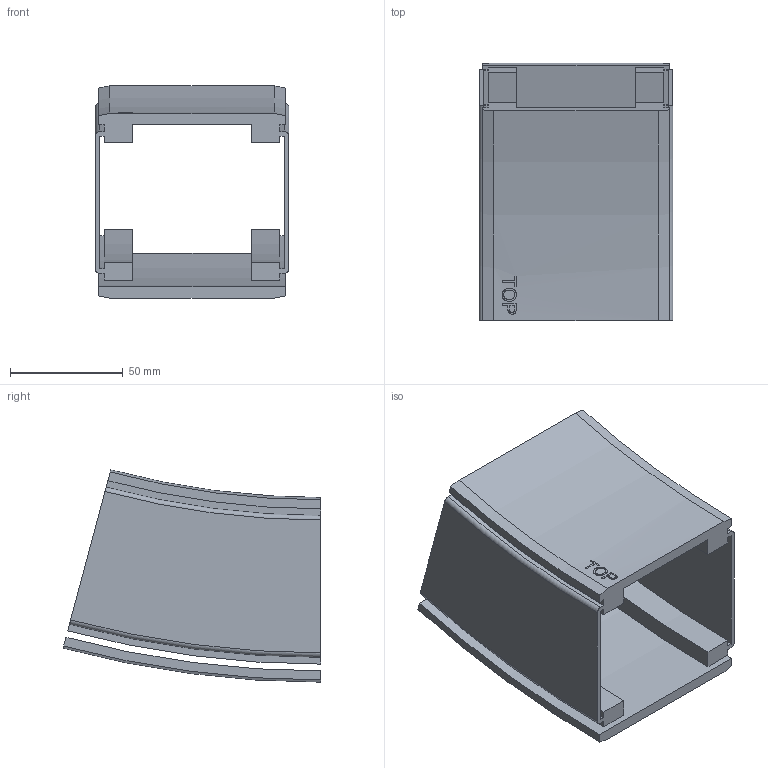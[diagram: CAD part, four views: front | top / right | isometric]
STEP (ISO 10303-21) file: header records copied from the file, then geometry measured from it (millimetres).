
FILE_DESCRIPTION(/* description */ ('VERTIKALKURVA S530 R400'),/* implementation_level */ '2;1');
FILE_NAME(/* name */ '530-5645+830-2000-UPP-01.stp',/* time_stamp */ '2022-09-21T07:03:50+02:00',/* author */ ('Mathias.Dore'),/* organization */ (''),/* preprocessor_version */ 'ST-DEVELOPER v19.2',/* originating_system */ 'Autodesk Inventor 2023',/* authorisation */ '');
FILE_SCHEMA (('AUTOMOTIVE_DESIGN { 1 0 10303 214 3 1 1 }'));
Length unit declared in the file: millimetre
Products named in the file (1): 530-5645+830-2000-UPP-01
Bounding box: 86 x 114.53 x 94.28 mm (x, y, z)
Volume: 155782.3 mm3; surface area: 78855.7 mm2
Topology: 2 solids, 2 shells, 87 faces, 234 edges, 156 vertices
Faces by surface type: plane 40, cylinder 25, bspline 14, cone 4, torus 4
Entity records: 7333 total; most frequent: CARTESIAN_POINT 5134, ORIENTED_EDGE 468, DIRECTION 408, EDGE_CURVE 234, VERTEX_POINT 156, AXIS2_PLACEMENT_3D 141, LINE 126, VECTOR 126
